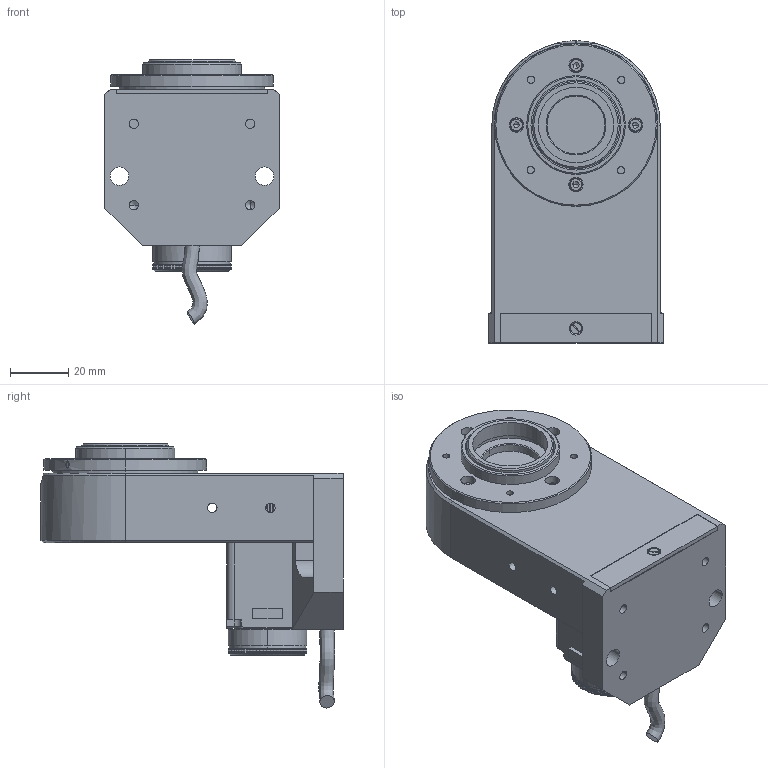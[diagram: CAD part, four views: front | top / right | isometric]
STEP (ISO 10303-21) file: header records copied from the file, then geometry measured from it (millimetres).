
FILE_DESCRIPTION (( 'STEP AP203' ), '1' );
FILE_NAME ('8MRU-1.STEP', '2010-09-27T11:25:20', ( 'Darius' ), ( '' ), 'SwSTEP 2.0', 'SolidWorks 2003240', '' );
FILE_SCHEMA (( 'CONFIG_CONTROL_DESIGN' ));
Length unit declared in the file: millimetre
Products named in the file (1): 8MRU-1
Bounding box: 60 x 104 x 90.91 mm (x, y, z)
Volume: 193532.3 mm3; surface area: 36215.2 mm2
Topology: 1 solids, 8 shells, 1015 faces, 2702 edges, 1726 vertices
Faces by surface type: cylinder 517, plane 421, cone 43, bspline 34
Entity records: 33883 total; most frequent: CARTESIAN_POINT 8632, ORIENTED_EDGE 5364, DIRECTION 5340, EDGE_CURVE 2682, AXIS2_PLACEMENT_3D 2025, VERTEX_POINT 1726, VECTOR 1290, LINE 1290
